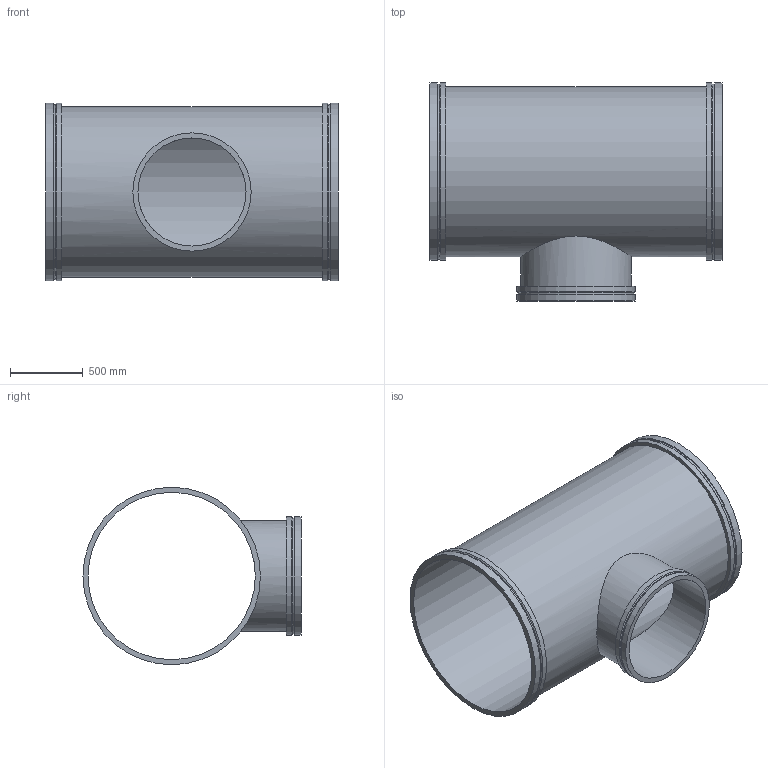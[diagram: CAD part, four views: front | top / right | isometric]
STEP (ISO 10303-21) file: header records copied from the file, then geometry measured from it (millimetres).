
FILE_DESCRIPTION(/* description */ ('VIC REDUCING TEE No W025 VR','CAx-IF Rec.Pracs.---Representation and Presentation of Product Manufacturing Information (PMI)---4.0---2014-10-13'),/* implementation_level */ '2;1');
FILE_NAME(/* name */ 'C:\Users\kkamble\AppData\Roaming\Autodesk\ApplicationPlugins\Back Up\Victaulic_Vic-Ring_Tee Reducing_No W25 VR (AGR)\Victaulic_Vic-Ring_Tee Reducing_No W25 VR (AGR)_46.0x30.0 (1150x750).stp',/* time_stamp */ '2020-09-10T11:56:39+05:00',/* author */ ('mchristi'),/* organization */ ('Victaulic'),/* preprocessor_version */ 'ST-DEVELOPER v17.2',/* originating_system */ 'Autodesk Inventor 2019',/* authorisation */ '');
FILE_SCHEMA (('AP242_MANAGED_MODEL_BASED_3D_ENGINEERING_MIM_LF { 1 0 10303 442 1 1 4 }'));
Length unit declared in the file: inch
Products named in the file (1): W25 VR-46.0x30.0
Bounding box: 2006.6 x 1498.6 x 1219.2 mm (x, y, z)
Volume: 99203941.7 mm3; surface area: 16207372.5 mm2
Topology: 1 solids, 1 shells, 25 faces, 68 edges, 52 vertices
Faces by surface type: cylinder 13, plane 9, cone 3
Full cylindrical faces by diameter (mm): 742.95 x1, 762 x1, 798.322 x1, 812.8 x2, 1149.35 x1, 1168.4 x1, 1203.325 x2, 1219.2 x4
Entity records: 1267 total; most frequent: CARTESIAN_POINT 423, DIRECTION 190, ORIENTED_EDGE 136, AXIS2_PLACEMENT_3D 87, EDGE_CURVE 68, VERTEX_POINT 52, CIRCLE 48, EDGE_LOOP 36
